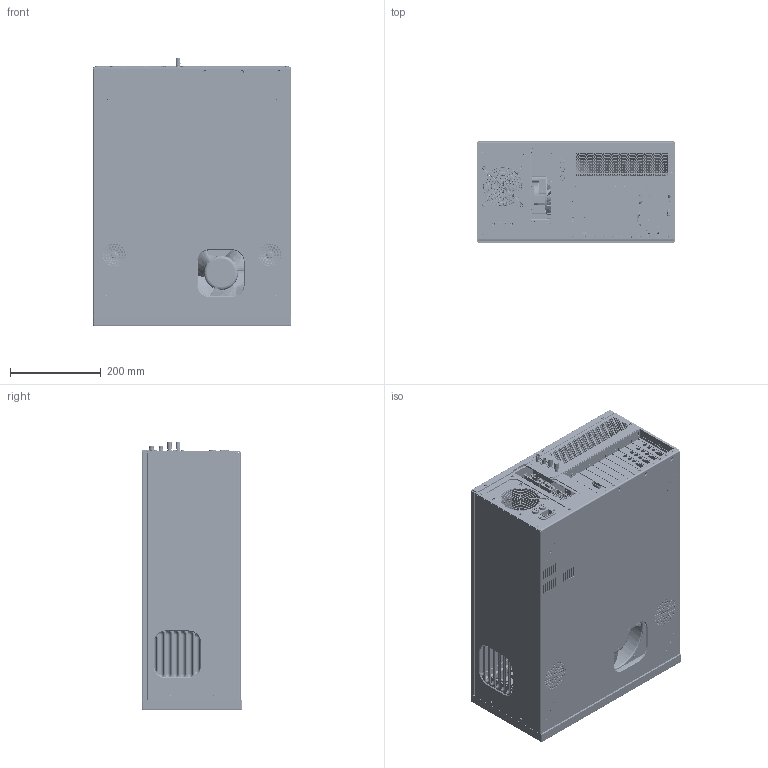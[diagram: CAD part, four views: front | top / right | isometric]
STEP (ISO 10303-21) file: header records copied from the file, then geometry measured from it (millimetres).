
FILE_DESCRIPTION((''),'2;1');
FILE_NAME('4200A_ASM','2016-02-19T',('rrich'),('Keithley Instruments'),'CREO PARAMETRIC BY PTC INC, 2014440','CREO PARAMETRIC BY PTC INC, 2014440','');
FILE_SCHEMA(('CONFIG_CONTROL_DESIGN'));
Length unit declared in the file: inch
Products named in the file (127): 3867921; PEM-BSOS-632-16; PEM-CLS-832-3; PEM-FHS-832-8; PEM-FHS-632-6; PEM-CLS-632-3; PEM-FHS-632-8; PEM-FHS-137-6; PEM-BSOS-632-10; PEM-BSOS-632-20; 3867921_ASM; 4412856_ASM; 1198674-HOUSING-WALL-SIDE; 1198674-HOUSING-CPU-SIDE; 1198674-INSIDE-FACE-PANEL; 1198674-REAR-FACE; PM-23; 1198674-FAN-GRILL; 1198674-FUSE; 1198674-LINE-LABEL; 1198674-MODEL-LABLE; 1198674_ASM; 3867910; PEM-BSOS-632-28; 3867910_ASM; 3867912; PEM-TPS-125-6; PEM-CLS-832-2; PEM-CLS-632-1; 3867912_ASM; 3867909; 3867919; 6-32KEPNUT; 3867955; DAR1-TOP-COVER_ASM; KPC-488-PCBD; KPC-488-ORB; KPC-488-IEEE; KPC-488_ASM; 4200-306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
Assembly tree (294 placements, depth 6):
  4200A_ASM
    4412856_ASM
      3867921_ASM
        3867921
        PEM-BSOS-632-16  x15
        PEM-CLS-832-3  x7
        PEM-FHS-832-8  x4
        PEM-FHS-632-6  x15
        PEM-CLS-632-3  x7
        PEM-FHS-632-8  x8
        PEM-FHS-137-6  x4
        PEM-BSOS-632-10  x7
        PEM-BSOS-632-20  x2
    1198674_ASM
      1198674-HOUSING-WALL-SIDE
      1198674-HOUSING-CPU-SIDE
      1198674-INSIDE-FACE-PANEL
      1198674-REAR-FACE
      PM-23
      1198674-FAN-GRILL
      1198674-FUSE  x2
      1198674-LINE-LABEL
      1198674-MODEL-LABLE
    3867910_ASM
      3867910
      PEM-BSOS-632-28  x11
    3867912_ASM
      3867912
      PEM-TPS-125-6  x11
      PEM-CLS-832-2
      PEM-CLS-632-1  x3
    DAR1-TOP-COVER_ASM
      3867909
      PEM-FHS-632-6  x9
      3867919
      6-32KEPNUT  x9
      3867955
    KPC-488_ASM
      KPC-488-PCBD
      KPC-488-ORB
      KPC-488-IEEE
    4200-SMU_ASM  x4
      4200-306
    3894928
    DARUMA-4200-FRONT-BEZEL-5U_ASM
      3334794
      4404160_ASM
        4404170
        1198675_ASM
          3780958_ASM
            3780959
            TM8097
          1198676
          1198677
      3867913_ASM
        3867913
        PEM-BSOS-632-20  x3
      8781120_ASM
        3894929
        1317895  x2
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Bounding box: 436.32 x 221.94 x 592.92 mm (x, y, z)
Volume: 4397496 mm3; surface area: 3998158.3 mm2
Topology: 286 solids, 511 shells, 27613 faces, 74809 edges, 48936 vertices
Faces by surface type: plane 17006, cylinder 7239, cone 1138, bspline 1107, torus 776, extrusion 207, sphere 140
Entity records: 680207 total; most frequent: CARTESIAN_POINT 187520, ORIENTED_EDGE 103070, DIRECTION 94906, EDGE_CURVE 52828, VECTOR 40816, LINE 40643, VERTEX_POINT 35008, AXIS2_PLACEMENT_3D 27045
